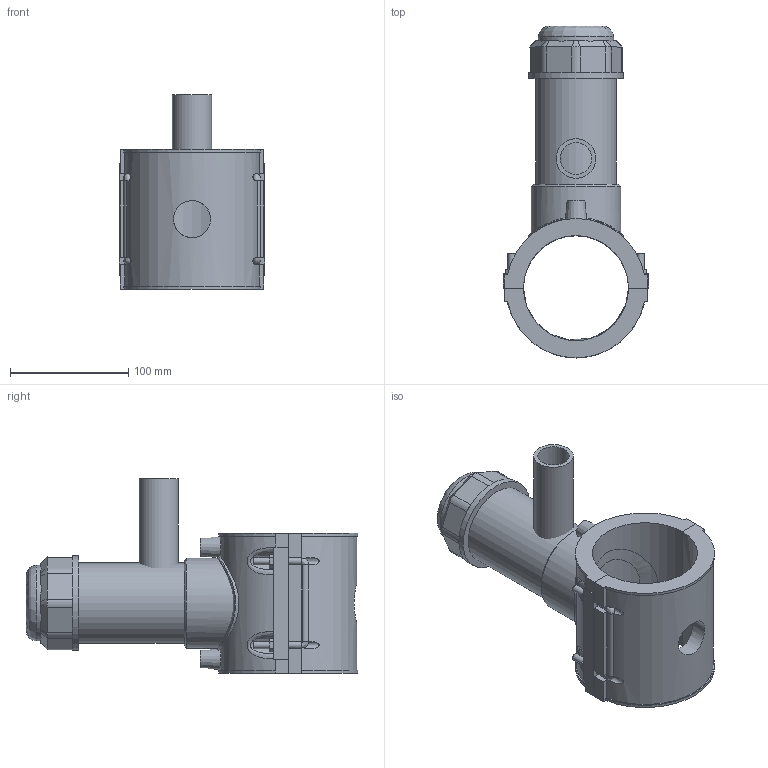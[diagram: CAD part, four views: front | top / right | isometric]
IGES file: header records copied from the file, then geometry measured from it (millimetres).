
Global section: file name: 5963BBP3030010.ipt; native system: Autodesk Inventor 2019; preprocessor: unknown; author: KIM; date: 20210830.101518; units: inch
Bounding box: 122.9 x 280.2 x 163.96 mm (x, y, z)
Volume: 948679.3 mm3; surface area: 198947.6 mm2
Topology: 3 solids, 3 shells, 204 faces, 526 edges, 343 vertices
Faces by surface type: plane 125, cylinder 37, revolution 21, cone 15, bspline 6
Full cylindrical faces by diameter (mm): 4 x2, 6 x8, 33.3 x1, 63.864 x1, 67.856 x1, 75.839 x1, 79.83 x1
